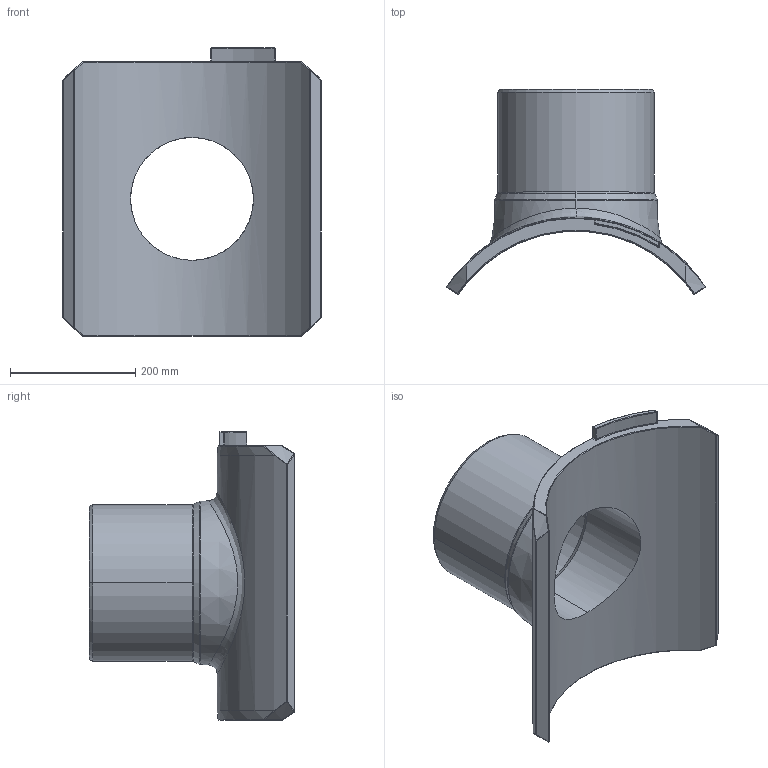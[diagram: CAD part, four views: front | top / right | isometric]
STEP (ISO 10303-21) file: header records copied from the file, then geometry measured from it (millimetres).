
FILE_DESCRIPTION((''),'2;1');
FILE_NAME('SA-UNI_D450_250_01','2024-10-29T13:41:28',('mikulicp'),(''),'CREO PARAMETRIC BY PTC INC, 2024133','CREO PARAMETRIC BY PTC INC, 2024133','');
FILE_SCHEMA(('AP242_MANAGED_MODEL_BASED_3D_ENGINEERING_MIM_LF { 1 0 10303 442 1 1 4 }'));
Length unit declared in the file: millimetre
Products named in the file (2): SA-UNI_D450_250_01; PE100
Bounding box: 412.52 x 327.37 x 460 mm (x, y, z)
Volume: 7862713.8 mm3; surface area: 699546.4 mm2
Topology: 1 solids, 1 shells, 241 faces, 583 edges, 360 vertices
Faces by surface type: bspline 77, plane 68, cylinder 49, sphere 20, torus 15, cone 12
Entity records: 15079 total; most frequent: CARTESIAN_POINT 6940, ORIENTED_EDGE 1166, DIRECTION 884, PRESENTATION_STYLE_ASSIGNMENT 595, STYLED_ITEM 584, CURVE_STYLE 583, EDGE_CURVE 583, VERTEX_POINT 360
